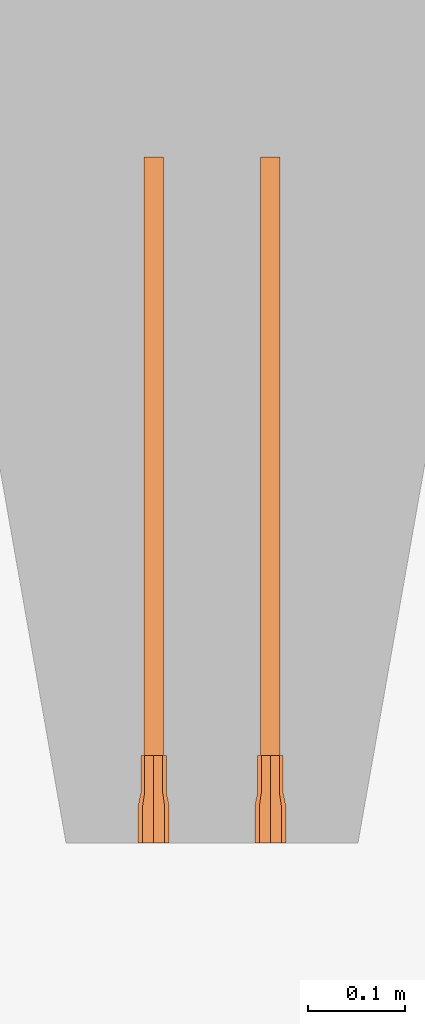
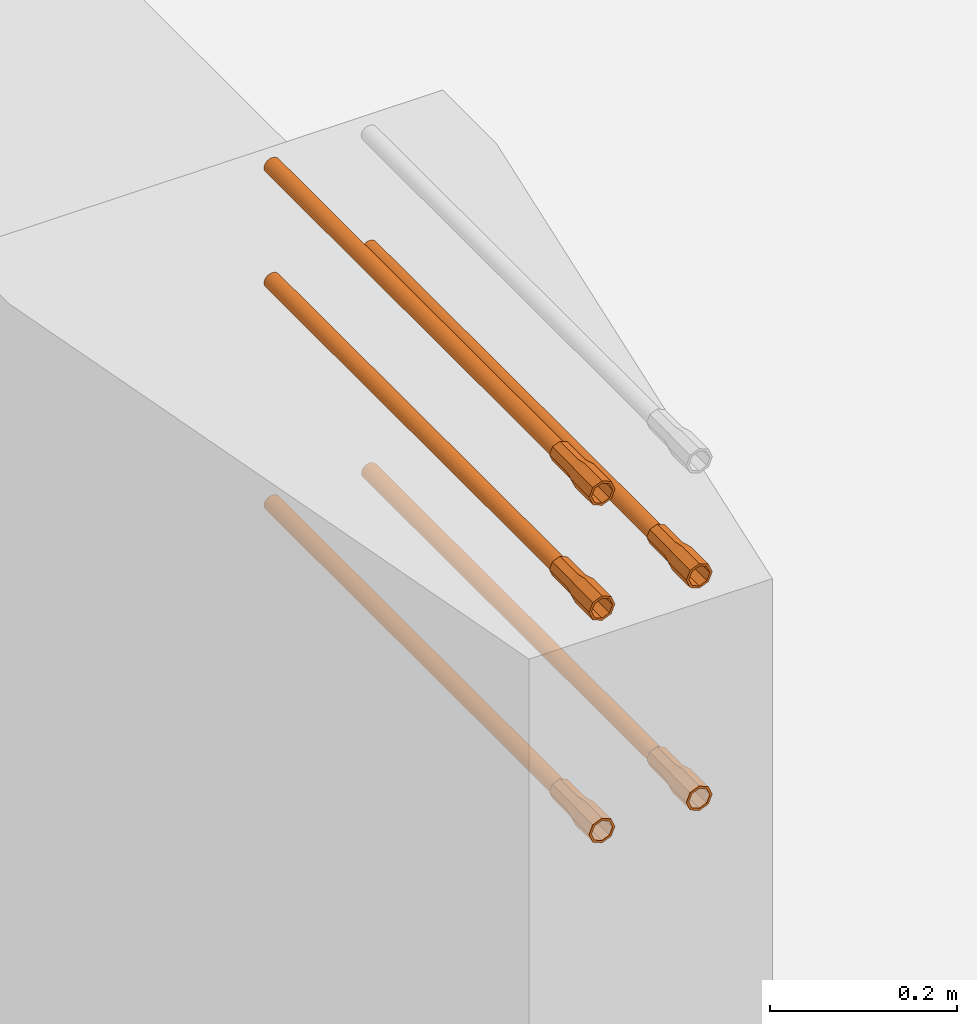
# One storey, part 24 of 26: 5 proxies.
"""IFC2X3 building model written with IfcOpenShell, lengths in millimetres."""

from ifc_helpers import new_model, entity, si_unit, converted_unit, derived_unit, direction, frame, frame_2d, origin, place, context, subcontext, project, spatial, circle, extrude, faceted_brep, source, transform, mapped, type_object, type_shapes, element, save


model = new_model("IFC2X3")

# Units and contexts
model_context = context("Model", 3, precision=0.01, world=origin(), true_north=direction((6.12303176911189e-17, 1.0)))
body_context = subcontext(model_context, "Body", "Model", "MODEL_VIEW")
ifc_project = project(units=[si_unit("LENGTHUNIT", "METRE", prefix="MILLI"), si_unit("AREAUNIT", "SQUARE_METRE"), si_unit("VOLUMEUNIT", "CUBIC_METRE"), converted_unit("PLANEANGLEUNIT", "DEGREE", entity("IfcRatioMeasure", 0.0174532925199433), si_unit("PLANEANGLEUNIT", "RADIAN"), dimensions=[0, 0, 0, 0, 0, 0, 0]), si_unit("MASSUNIT", "GRAM", prefix="KILO"), derived_unit("MASSDENSITYUNIT", [(si_unit("MASSUNIT", "GRAM", prefix="KILO"), 1), (si_unit("LENGTHUNIT", "METRE"), -3)]), si_unit("TIMEUNIT", "SECOND"), si_unit("FREQUENCYUNIT", "HERTZ"), si_unit("THERMODYNAMICTEMPERATUREUNIT", "DEGREE_CELSIUS"), derived_unit("THERMALTRANSMITTANCEUNIT", [(si_unit("MASSUNIT", "GRAM", prefix="KILO"), 1), (si_unit("THERMODYNAMICTEMPERATUREUNIT", "KELVIN"), -1), (si_unit("TIMEUNIT", "SECOND"), -3)]), derived_unit("VOLUMETRICFLOWRATEUNIT", [(si_unit("LENGTHUNIT", "METRE"), 3), (si_unit("TIMEUNIT", "SECOND"), -1)]), si_unit("ELECTRICCURRENTUNIT", "AMPERE"), si_unit("ELECTRICVOLTAGEUNIT", "VOLT"), si_unit("POWERUNIT", "WATT"), si_unit("FORCEUNIT", "NEWTON", prefix="KILO"), si_unit("ILLUMINANCEUNIT", "LUX"), si_unit("LUMINOUSFLUXUNIT", "LUMEN"), si_unit("LUMINOUSINTENSITYUNIT", "CANDELA"), derived_unit("USERDEFINED", [(si_unit("MASSUNIT", "GRAM", prefix="KILO"), -1), (si_unit("LENGTHUNIT", "METRE"), -2), (si_unit("TIMEUNIT", "SECOND"), 3), (si_unit("LUMINOUSFLUXUNIT", "LUMEN"), 1)]), derived_unit("LINEARVELOCITYUNIT", [(si_unit("LENGTHUNIT", "METRE"), 1), (si_unit("TIMEUNIT", "SECOND"), -1)]), si_unit("PRESSUREUNIT", "PASCAL"), derived_unit("USERDEFINED", [(si_unit("LENGTHUNIT", "METRE"), -2), (si_unit("MASSUNIT", "GRAM", prefix="KILO"), 1), (si_unit("TIMEUNIT", "SECOND"), -2)])], contexts=[model_context])

# Site, building, storey
site_placement = place(None, origin())
site = spatial("IfcSite", under=ifc_project, at=site_placement, Name="Default", CompositionType="ELEMENT")
building_placement = place(site_placement, origin())
building = spatial("IfcBuilding", under=site, at=building_placement, Name="niet gebruiken", CompositionType="ELEMENT")
storey_placement = place(building_placement, origin())
storey = spatial("IfcBuildingStorey", under=building, at=storey_placement, Name="00 begane grond", CompositionType="ELEMENT", Elevation=0.0)

# Proxies
building_element_proxy_type_1 = type_object("IfcBuildingElementProxyType", Name="Ø20/M24x705", PredefinedType="NOTDEFINED")
shared_shape_1 = source(origin(), body_context, "Body", "SolidModel", [
    extrude(circle(Radius=10.0, at=frame_2d((0.0, -1.61554457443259e-14), x_axis=(1.0, 0.0))), frame((34.9769027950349, 0.0, -705.0)), (0.0, 0.0, 1.0), 615.0),
    extrude(circle(Radius=10.0, at=frame_2d((0.0, -1.61554457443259e-14), x_axis=(1.0, 0.0))), frame((34.9769027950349, 0.0, -705.0)), (0.0, 0.0, 1.0), 615.0),
    faceted_brep([(29.3200485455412, 13.6568542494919, 0.0), (32.1484756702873, 14.8284271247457, 0.0), (34.9769027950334, 16.0, 0.0), (34.9769027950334, 16.0, -38.0), (32.1484756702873, 14.8284271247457, -38.0), (29.3200485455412, 13.6568542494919, -38.0), (26.4916214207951, 12.4852813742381, -38.0), (23.663194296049, 11.3137084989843, -38.0), (23.663194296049, 11.3137084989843, 0.0), (26.4916214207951, 12.4852813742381, 0.0), (49.805329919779, 2.82842712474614, 0.0), (50.9769027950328, 0.0, 0.0), (50.9769027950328, 0.0, -38.0), (50.0199937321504, 2.31018283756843, -38.0), (49.7680552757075, 2.91841607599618, -38.0), (48.6337570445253, 5.65685424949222, -38.0), (48.5592077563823, 5.83683215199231, -38.0), (47.4621841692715, 8.48528137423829, -38.0), (46.2906112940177, 11.3137084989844, -38.0), (46.2906112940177, 11.3137084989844, 0.0), (47.4621841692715, 8.48528137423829, 0.0), (48.6337570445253, 5.65685424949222, 0.0), (21.3200485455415, 5.65685424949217, 0.0), (22.4916214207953, 8.48528137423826, 0.0), (22.4916214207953, 8.48528137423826, -38.0), (22.2769576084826, 7.96703708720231, -38.0), (21.3200485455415, 5.65685424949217, -38.0), (20.8907209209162, 4.62036567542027, -38.0), (20.1484756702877, 2.82842712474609, -38.0), (18.976902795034, 0.0, -38.0), (18.976902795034, 0.0, 0.0), (20.1484756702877, 2.82842712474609, 0.0), (40.6337570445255, 13.6568542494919, 0.0), (43.4621841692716, 12.4852813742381, 0.0), (43.4621841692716, 12.4852813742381, -38.0), (40.6337570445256, 13.6568542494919, -38.0), (37.8053299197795, 14.8284271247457, -38.0), (37.8053299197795, 14.8284271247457, 0.0), (49.063084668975, -4.62036567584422, 0.0), (47.6768479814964, -7.96703708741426, 0.0), (46.2906112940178, -11.3137084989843, 0.0), (46.2906112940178, -11.3137084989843, -38.0), (47.4621841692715, -8.48528137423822, -38.0), (48.6337570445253, -5.65685424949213, -38.0), (49.8053299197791, -2.82842712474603, -38.0), (29.3200485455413, -13.6568542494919, 0.0), (26.4916214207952, -12.4852813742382, 0.0), (23.6631942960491, -11.3137084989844, 0.0), (23.6631942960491, -11.3137084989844, -38.0), (26.4916214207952, -12.4852813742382, -38.0), (29.3200485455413, -13.6568542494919, -38.0), (32.1484756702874, -14.8284271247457, -38.0), (34.9769027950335, -16.0, -38.0), (34.9769027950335, -16.0, 0.0), (32.1484756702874, -14.8284271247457, 0.0), (37.8053299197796, -14.8284271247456, -38.0), (40.6337570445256, -13.6568542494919, -38.0), (43.4621841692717, -12.4852813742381, -38.0), (43.4621841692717, -12.4852813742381, 0.0), (40.6337570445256, -13.6568542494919, 0.0), (37.8053299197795, -14.8284271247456, 0.0), (22.4916214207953, -8.48528137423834, 0.0), (21.3200485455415, -5.65685424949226, 0.0), (20.1484756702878, -2.82842712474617, 0.0), (19.9338118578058, -2.31018283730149, -38.0), (20.1857498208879, -2.91841488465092, -38.0), (21.3200485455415, -5.65685424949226, -38.0), (22.4916214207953, -8.48528137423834, -38.0), (25.7845146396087, 9.19238815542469, -52.0), (24.8628969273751, 6.96740617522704, -52.0), (23.9412792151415, 4.7424241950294, -52.0), (22.9590910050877, 2.3712120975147, -52.0), (21.976902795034, 0.0, -52.0), (44.1692909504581, 9.19238815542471, -52.0), (47.9769027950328, 0.0, -52.0), (46.994714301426, 2.37121278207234, -52.0), (46.0730968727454, 4.59619407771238, -52.0), (45.1211939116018, 6.89429111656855, -52.0), (34.9769027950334, 13.0, -52.0), (32.6788057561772, 12.0480970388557, -52.0), (30.380708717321, 11.096194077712, -52.0), (28.0826116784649, 10.1442911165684, -52.0), (37.2749998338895, 12.0480970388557, -52.0), (41.8711939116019, 10.1442911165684, -52.0), (39.5730968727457, 11.0961940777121, -52.0), (44.1692909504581, -9.19238815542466, -52.0), (45.0909086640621, -6.96740617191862, -52.0), (45.3722781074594, -6.28812024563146, -52.0), (46.0125263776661, -4.74242418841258, -52.0), (46.5752652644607, -3.38385233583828, -52.0), (46.9947145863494, -2.37121209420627, -52.0), (28.0826116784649, -10.1442911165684, -52.0), (30.3807087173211, -11.0961940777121, -52.0), (32.6788057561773, -12.0480970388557, -52.0), (34.9769027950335, -13.0, -52.0), (25.7845146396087, -9.19238815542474, -52.0), (37.2749998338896, -12.0480970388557, -52.0), (39.5730968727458, -11.096194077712, -52.0), (41.871193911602, -10.1442911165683, -52.0), (22.9288057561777, -2.29809703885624, -52.0), (23.8807087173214, -4.59619407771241, -52.0), (24.8326116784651, -6.89429111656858, -52.0), (32.6788057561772, 12.0480970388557, -90.0), (30.380708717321, 11.096194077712, -90.0), (28.0826116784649, 10.1442911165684, -90.0), (25.7845146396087, 9.19238815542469, -90.0), (34.9769027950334, 13.0, -90.0), (47.9769027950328, 0.0, -90.0), (47.2760840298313, 1.691926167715, -90.0), (46.0730968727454, 4.59619407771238, -90.0), (45.1211939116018, 6.89429111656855, -90.0), (44.1692909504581, 9.19238815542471, -90.0), (23.3785403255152, 3.38385233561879, -90.0), (21.976902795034, 0.0, -90.0), (24.5815274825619, 6.28812024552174, -90.0), (41.8711939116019, 10.1442911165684, -90.0), (39.5730968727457, 11.0961940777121, -90.0), (37.2749998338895, 12.0480970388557, -90.0), (46.0730968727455, -4.5961940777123, -90.0), (47.0249998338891, -2.29809703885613, -90.0), (44.1692909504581, -9.19238815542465, -90.0), (45.1211939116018, -6.89429111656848, -90.0), (25.7845146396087, -9.19238815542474, -90.0), (28.0826116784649, -10.1442911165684, -90.0), (30.3807087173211, -11.0961940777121, -90.0), (32.6788057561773, -12.0480970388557, -90.0), (34.9769027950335, -13.0, -90.0), (37.2749998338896, -12.0480970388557, -90.0), (39.5730968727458, -11.096194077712, -90.0), (41.871193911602, -10.1442911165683, -90.0), (22.6777215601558, -1.6919261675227, -90.0), (23.8807087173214, -4.59619407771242, -90.0), (24.8326116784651, -6.89429111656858, -90.0), (34.9769027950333, 0.0, -90.0), (34.9769027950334, 0.0, -38.0), (47.9769027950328, 0.0, -38.0), (47.2760840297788, 1.69192616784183, -38.0), (46.0730968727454, 4.59619407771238, -38.0), (45.1211939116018, 6.89429111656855, -38.0), (44.1692909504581, 9.19238815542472, -38.0), (41.8711939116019, 10.1442911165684, -38.0), (39.5730968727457, 11.0961940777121, -38.0), (37.2749998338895, 12.0480970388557, -38.0), (34.9769027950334, 13.0, -38.0), (32.6788057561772, 12.0480970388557, -38.0), (30.380708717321, 11.096194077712, -38.0), (28.0826116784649, 10.1442911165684, -38.0), (25.7845146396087, 9.19238815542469, -38.0), (24.5815274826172, 6.28812024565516, -38.0), (23.3785403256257, 3.38385233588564, -38.0), (21.976902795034, 0.0, -38.0), (22.6777215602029, -1.69192616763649, -38.0), (47.0249998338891, -2.29809703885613, -38.0), (46.0730968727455, -4.59619407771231, -38.0), (45.1211939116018, -6.89429111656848, -38.0), (44.1692909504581, -9.19238815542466, -38.0), (41.871193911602, -10.1442911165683, -38.0), (39.5730968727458, -11.096194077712, -38.0), (37.2749998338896, -12.0480970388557, -38.0), (34.9769027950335, -13.0, -38.0), (23.8807087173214, -4.59619407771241, -38.0), (24.8326116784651, -6.89429111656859, -38.0), (25.7845146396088, -9.19238815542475, -38.0), (28.0826116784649, -10.1442911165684, -38.0), (30.3807087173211, -11.0961940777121, -38.0), (32.6788057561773, -12.0480970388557, -38.0), (32.6788057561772, 12.0480970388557, 0.0), (30.380708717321, 11.096194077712, 0.0), (28.0826116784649, 10.1442911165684, 0.0), (25.7845146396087, 9.19238815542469, 0.0), (34.9769027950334, 13.0, 0.0), (47.9769027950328, 0.0, 0.0), (47.0249998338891, 2.29809703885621, 0.0), (46.0730968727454, 4.59619407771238, 0.0), (45.1211939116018, 6.89429111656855, 0.0), (44.1692909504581, 9.19238815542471, 0.0), (24.832611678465, 6.89429111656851, 0.0), (23.8807087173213, 4.59619407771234, 0.0), (22.9288057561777, 2.29809703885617, 0.0), (21.976902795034, 0.0, 0.0), (37.2749998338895, 12.0480970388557, 0.0), (41.8711939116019, 10.1442911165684, 0.0), (39.5730968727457, 11.0961940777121, 0.0), (44.1692909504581, -9.19238815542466, 0.0), (45.3722781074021, -6.28812024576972, 0.0), (46.5752652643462, -3.38385233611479, 0.0), (32.6788057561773, -12.0480970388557, 0.0), (34.9769027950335, -13.0, 0.0), (25.7845146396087, -9.19238815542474, 0.0), (28.0826116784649, -10.1442911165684, 0.0), (30.3807087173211, -11.0961940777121, 0.0), (37.2749998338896, -12.0480970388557, 0.0), (39.5730968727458, -11.096194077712, 0.0), (41.871193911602, -10.1442911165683, 0.0), (22.9288057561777, -2.29809703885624, 0.0), (23.8807087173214, -4.59619407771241, 0.0), (24.8326116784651, -6.89429111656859, 0.0)], [[[0, 1, 2, 3, 4, 5, 6, 7, 8, 9]], [[10, 11, 12, 13, 14, 15, 16, 17, 18, 19, 20, 21]], [[22, 23, 8, 7, 24, 25, 26, 27, 28, 29, 30, 31]], [[32, 33, 19, 18, 34, 35, 36, 3, 2, 37]], [[38, 39, 40, 41, 42, 43, 44, 12, 11]], [[45, 46, 47, 48, 49, 50, 51, 52, 53, 54]], [[53, 52, 55, 56, 57, 41, 40, 58, 59, 60]], [[48, 47, 61, 62, 63, 30, 29, 64, 65, 66, 67]], [[7, 68, 69, 70, 71, 72, 29, 28, 27, 26, 25, 24]], [[73, 18, 17, 16, 15, 14, 13, 12, 74, 75, 76, 77]], [[4, 3, 78, 79, 80, 81, 68, 7, 6, 5]], [[82, 78, 3, 36, 35, 34, 18, 73, 83, 84]], [[41, 85, 86, 87, 88, 89, 90, 74, 12, 44, 43, 42]], [[91, 92, 93, 94, 52, 51, 50, 49, 48, 95]], [[55, 52, 94, 96, 97, 98, 85, 41, 57, 56]], [[99, 100, 101, 95, 48, 67, 66, 65, 64, 29, 72]], [[102, 103, 104, 105, 68, 81, 80, 79, 78, 106]], [[75, 74, 107, 108, 109, 110, 111, 73, 77, 76]], [[112, 113, 72, 71, 70, 69, 68, 105, 114]], [[84, 83, 73, 111, 115, 116, 117, 106, 78, 82]], [[118, 119, 107, 74, 90, 89, 88, 87, 86, 85, 120, 121]], [[92, 91, 95, 122, 123, 124, 125, 126, 94, 93]], [[94, 126, 127, 128, 129, 120, 85, 98, 97, 96]], [[122, 95, 101, 100, 99, 72, 113, 130, 131, 132]], [[133, 111, 110]], [[133, 110, 109]], [[133, 109, 108]], [[133, 108, 107]], [[133, 107, 119]], [[133, 115, 111]], [[133, 116, 115]], [[133, 117, 116]], [[133, 106, 117]], [[133, 102, 106]], [[133, 103, 102]], [[133, 104, 103]], [[133, 105, 104]], [[133, 114, 105]], [[133, 112, 114]], [[133, 113, 112]], [[133, 119, 118]], [[133, 118, 121]], [[133, 121, 120]], [[133, 120, 129]], [[133, 129, 128]], [[133, 128, 127]], [[133, 127, 126]], [[133, 126, 125]], [[133, 130, 113]], [[133, 131, 130]], [[133, 132, 131]], [[133, 122, 132]], [[133, 125, 124]], [[133, 124, 123]], [[133, 123, 122]], [[134, 135, 136]], [[134, 136, 137]], [[134, 137, 138]], [[134, 138, 139]], [[134, 139, 140]], [[134, 140, 141]], [[134, 141, 142]], [[134, 142, 143]], [[134, 143, 144]], [[134, 144, 145]], [[134, 145, 146]], [[134, 146, 147]], [[134, 147, 148]], [[134, 148, 149]], [[134, 149, 150]], [[134, 150, 151]], [[134, 152, 135]], [[134, 153, 152]], [[134, 154, 153]], [[134, 155, 154]], [[134, 156, 155]], [[134, 157, 156]], [[134, 158, 157]], [[134, 159, 158]], [[134, 151, 160]], [[134, 160, 161]], [[134, 161, 162]], [[134, 162, 163]], [[134, 163, 164]], [[134, 164, 165]], [[134, 165, 159]], [[166, 167, 168, 169, 147, 146, 145, 144, 143, 170]], [[136, 135, 171, 172, 173, 174, 175, 139, 138, 137]], [[148, 147, 169, 176, 177, 178, 179, 150, 149]], [[180, 170, 143, 142, 141, 140, 139, 175, 181, 182]], [[153, 154, 155, 183, 184, 185, 171, 135, 152]], [[186, 187, 159, 165, 164, 163, 162, 188, 189, 190]], [[158, 159, 187, 191, 192, 193, 183, 155, 156, 157]], [[161, 160, 151, 150, 179, 194, 195, 196, 188, 162]], [[171, 11, 10]], [[171, 10, 21]], [[171, 21, 20]], [[171, 20, 19]], [[19, 172, 171]], [[171, 38, 11]], [[171, 39, 38]], [[171, 40, 39]], [[40, 171, 185]], [[40, 185, 184]], [[40, 184, 183]], [[183, 58, 40]], [[183, 59, 58]], [[183, 60, 59]], [[183, 53, 60]], [[53, 183, 193]], [[53, 193, 192]], [[53, 192, 191]], [[53, 191, 187]], [[53, 187, 186]], [[53, 186, 190]], [[53, 190, 189]], [[53, 189, 188]], [[188, 54, 53]], [[188, 45, 54]], [[188, 46, 45]], [[188, 47, 46]], [[47, 188, 196]], [[47, 196, 195]], [[47, 195, 194]], [[47, 194, 179]], [[179, 61, 47]], [[179, 62, 61]], [[179, 63, 62]], [[179, 30, 63]], [[179, 31, 30]], [[179, 22, 31]], [[179, 23, 22]], [[179, 8, 23]], [[8, 179, 178]], [[8, 178, 177]], [[8, 177, 176]], [[8, 176, 169]], [[169, 9, 8]], [[169, 0, 9]], [[169, 1, 0]], [[169, 2, 1]], [[2, 169, 168]], [[2, 168, 167]], [[2, 167, 166]], [[2, 166, 170]], [[2, 170, 180]], [[2, 180, 182]], [[2, 182, 181]], [[2, 181, 175]], [[175, 19, 33]], [[19, 175, 174]], [[175, 33, 32]], [[175, 32, 37]], [[175, 37, 2]], [[19, 174, 173]], [[19, 173, 172]]]),
])
type_shapes(building_element_proxy_type_1, [shared_shape_1])
for number, where, z_axis, x_axis in (
    (1, (147825.023097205, 150.0, 5945.0), (0.0, -1.0, 0.0), (1.0, 0.0, 0.0)),
    (2, (147825.023097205, 150.0, 5655.0), (0.0, -1.0, 0.0), (1.0, 0.0, 0.0)),
):
    element("IfcBuildingElementProxy", number, at=place(storey_placement, frame(where, z_axis=z_axis, x_axis=x_axis)), inside=storey, type_object=building_element_proxy_type_1, Name="GM_Stekanker_DEMU_4010 GV:Ø20/M24x705", ObjectType="Ø20/M24x705", context=body_context, shape_type="MappedRepresentation", body=[
        mapped(shared_shape_1, transform((0.0, 0.0, 0.0), scale=1.0)),
    ])
building_element_proxy_type_2 = type_object("IfcBuildingElementProxyType", Name="Ø20/M24x705", PredefinedType="NOTDEFINED")
shared_shape_2 = source(origin(), body_context, "Body", "SolidModel", [
    extrude(circle(Radius=10.0, at=frame_2d((0.0, -4.50212443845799e-14), x_axis=(1.0, 0.0))), frame((34.9769027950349, 0.0, -705.0)), (0.0, 0.0, 1.0), 615.0),
    extrude(circle(Radius=10.0, at=frame_2d((0.0, -4.50212443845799e-14), x_axis=(1.0, 0.0))), frame((34.9769027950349, 0.0, -705.0)), (0.0, 0.0, 1.0), 615.0),
    faceted_brep([(26.4916214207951, -12.4852813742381, 0.0), (23.663194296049, -11.3137084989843, 0.0), (23.663194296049, -11.3137084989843, -38.0), (26.4916214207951, -12.4852813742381, -38.0), (29.3200485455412, -13.6568542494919, -38.0), (32.1484756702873, -14.8284271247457, -38.0), (34.9769027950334, -16.0, -38.0), (34.9769027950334, -16.0, 0.0), (32.1484756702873, -14.8284271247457, 0.0), (29.3200485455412, -13.6568542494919, 0.0), (50.0199937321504, -2.31018283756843, -38.0), (50.9769027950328, 0.0, -38.0), (50.9769027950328, 0.0, 0.0), (49.805329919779, -2.82842712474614, 0.0), (48.6337570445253, -5.65685424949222, 0.0), (47.4621841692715, -8.48528137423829, 0.0), (46.2906112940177, -11.3137084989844, 0.0), (46.2906112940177, -11.3137084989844, -38.0), (47.4621841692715, -8.48528137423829, -38.0), (48.5592077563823, -5.83683215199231, -38.0), (48.6337570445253, -5.65685424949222, -38.0), (49.7680552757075, -2.91841607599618, -38.0), (21.3200485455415, -5.65685424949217, 0.0), (20.1484756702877, -2.82842712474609, 0.0), (18.976902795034, 0.0, 0.0), (18.976902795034, 0.0, -38.0), (20.1484756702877, -2.82842712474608, -38.0), (20.8907209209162, -4.62036567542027, -38.0), (21.3200485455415, -5.65685424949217, -38.0), (22.2769576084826, -7.9670370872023, -38.0), (22.4916214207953, -8.48528137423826, -38.0), (22.4916214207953, -8.48528137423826, 0.0), (37.8053299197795, -14.8284271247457, 0.0), (37.8053299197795, -14.8284271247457, -38.0), (40.6337570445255, -13.6568542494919, -38.0), (43.4621841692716, -12.4852813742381, -38.0), (43.4621841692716, -12.4852813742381, 0.0), (40.6337570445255, -13.6568542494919, 0.0), (48.6337570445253, 5.65685424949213, -38.0), (47.4621841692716, 8.48528137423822, -38.0), (46.2906112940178, 11.3137084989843, -38.0), (46.2906112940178, 11.3137084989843, 0.0), (47.6768479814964, 7.96703708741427, 0.0), (49.063084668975, 4.62036567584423, 0.0), (49.8053299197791, 2.82842712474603, -38.0), (32.1484756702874, 14.8284271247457, 0.0), (34.9769027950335, 16.0, 0.0), (34.9769027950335, 16.0, -38.0), (32.1484756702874, 14.8284271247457, -38.0), (29.3200485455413, 13.6568542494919, -38.0), (26.4916214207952, 12.4852813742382, -38.0), (23.6631942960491, 11.3137084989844, -38.0), (23.6631942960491, 11.3137084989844, 0.0), (26.4916214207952, 12.4852813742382, 0.0), (29.3200485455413, 13.6568542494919, 0.0), (37.8053299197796, 14.8284271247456, -38.0), (37.8053299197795, 14.8284271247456, 0.0), (40.6337570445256, 13.6568542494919, 0.0), (43.4621841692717, 12.4852813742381, 0.0), (43.4621841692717, 12.4852813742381, -38.0), (40.6337570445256, 13.6568542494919, -38.0), (22.4916214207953, 8.48528137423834, -38.0), (21.3200485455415, 5.65685424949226, -38.0), (20.1857498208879, 2.91841488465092, -38.0), (19.9338118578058, 2.31018283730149, -38.0), (20.1484756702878, 2.82842712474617, 0.0), (21.3200485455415, 5.65685424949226, 0.0), (22.4916214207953, 8.48528137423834, 0.0), (24.8628969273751, -6.96740617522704, -52.0), (25.7845146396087, -9.19238815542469, -52.0), (21.976902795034, 0.0, -52.0), (22.9590910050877, -2.3712120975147, -52.0), (23.9412792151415, -4.7424241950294, -52.0), (45.1211939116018, -6.89429111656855, -52.0), (46.0730968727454, -4.59619407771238, -52.0), (46.994714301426, -2.37121278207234, -52.0), (47.9769027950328, 0.0, -52.0), (44.1692909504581, -9.19238815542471, -52.0), (34.9769027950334, -13.0, -52.0), (28.0826116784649, -10.1442911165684, -52.0), (30.380708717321, -11.096194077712, -52.0), (32.6788057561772, -12.0480970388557, -52.0), (37.2749998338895, -12.0480970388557, -52.0), (39.5730968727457, -11.0961940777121, -52.0), (41.8711939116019, -10.1442911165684, -52.0), (45.0909086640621, 6.96740617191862, -52.0), (44.1692909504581, 9.19238815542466, -52.0), (46.9947145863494, 2.37121209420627, -52.0), (46.5752652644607, 3.38385233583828, -52.0), (46.0125263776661, 4.74242418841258, -52.0), (45.3722781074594, 6.28812024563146, -52.0), (34.9769027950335, 13.0, -52.0), (32.6788057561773, 12.0480970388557, -52.0), (30.3807087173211, 11.0961940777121, -52.0), (28.0826116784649, 10.1442911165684, -52.0), (25.7845146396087, 9.19238815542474, -52.0), (41.871193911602, 10.1442911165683, -52.0), (39.5730968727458, 11.096194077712, -52.0), (37.2749998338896, 12.0480970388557, -52.0), (22.9288057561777, 2.29809703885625, -52.0), (24.8326116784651, 6.89429111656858, -52.0), (23.8807087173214, 4.59619407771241, -52.0), (25.7845146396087, -9.19238815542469, -90.0), (28.0826116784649, -10.1442911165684, -90.0), (30.380708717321, -11.096194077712, -90.0), (32.6788057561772, -12.0480970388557, -90.0), (34.9769027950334, -13.0, -90.0), (47.2760840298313, -1.691926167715, -90.0), (47.9769027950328, 0.0, -90.0), (44.1692909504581, -9.19238815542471, -90.0), (45.1211939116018, -6.89429111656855, -90.0), (46.0730968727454, -4.59619407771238, -90.0), (24.5815274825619, -6.28812024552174, -90.0), (21.976902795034, 0.0, -90.0), (23.3785403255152, -3.38385233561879, -90.0), (37.2749998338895, -12.0480970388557, -90.0), (39.5730968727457, -11.0961940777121, -90.0), (41.8711939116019, -10.1442911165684, -90.0), (46.0730968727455, 4.5961940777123, -90.0), (45.1211939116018, 6.89429111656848, -90.0), (44.1692909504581, 9.19238815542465, -90.0), (47.0249998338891, 2.29809703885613, -90.0), (34.9769027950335, 13.0, -90.0), (32.6788057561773, 12.0480970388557, -90.0), (30.3807087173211, 11.0961940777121, -90.0), (28.0826116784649, 10.1442911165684, -90.0), (25.7845146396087, 9.19238815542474, -90.0), (37.2749998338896, 12.0480970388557, -90.0), (41.871193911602, 10.1442911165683, -90.0), (39.5730968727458, 11.096194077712, -90.0), (24.8326116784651, 6.89429111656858, -90.0), (23.8807087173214, 4.59619407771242, -90.0), (22.6777215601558, 1.6919261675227, -90.0), (34.9769027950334, 0.0, -90.0), (34.9769027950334, 0.0, -38.0), (44.1692909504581, -9.19238815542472, -38.0), (45.1211939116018, -6.89429111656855, -38.0), (46.0730968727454, -4.59619407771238, -38.0), (47.2760840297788, -1.69192616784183, -38.0), (47.9769027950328, 0.0, -38.0), (47.0249998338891, 2.29809703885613, -38.0), (41.8711939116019, -10.1442911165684, -38.0), (39.5730968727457, -11.0961940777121, -38.0), (37.2749998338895, -12.0480970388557, -38.0), (34.9769027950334, -13.0, -38.0), (32.6788057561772, -12.0480970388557, -38.0), (30.380708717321, -11.096194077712, -38.0), (28.0826116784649, -10.1442911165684, -38.0), (25.7845146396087, -9.19238815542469, -38.0), (24.5815274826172, -6.28812024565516, -38.0), (23.3785403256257, -3.38385233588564, -38.0), (21.976902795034, 0.0, -38.0), (46.0730968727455, 4.59619407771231, -38.0), (45.1211939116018, 6.89429111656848, -38.0), (44.1692909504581, 9.19238815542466, -38.0), (41.871193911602, 10.1442911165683, -38.0), (39.5730968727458, 11.096194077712, -38.0), (37.2749998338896, 12.0480970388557, -38.0), (34.9769027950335, 13.0, -38.0), (32.6788057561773, 12.0480970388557, -38.0), (22.6777215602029, 1.69192616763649, -38.0), (23.8807087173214, 4.59619407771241, -38.0), (24.8326116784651, 6.89429111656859, -38.0), (25.7845146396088, 9.19238815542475, -38.0), (30.3807087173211, 11.0961940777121, -38.0), (28.0826116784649, 10.1442911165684, -38.0), (25.7845146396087, -9.19238815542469, 0.0), (28.0826116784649, -10.1442911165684, 0.0), (30.380708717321, -11.096194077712, 0.0), (32.6788057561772, -12.0480970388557, 0.0), (34.9769027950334, -13.0, 0.0), (47.0249998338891, -2.29809703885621, 0.0), (47.9769027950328, 0.0, 0.0), (44.1692909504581, -9.19238815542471, 0.0), (45.1211939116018, -6.89429111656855, 0.0), (46.0730968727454, -4.59619407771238, 0.0), (21.976902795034, 0.0, 0.0), (22.9288057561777, -2.29809703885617, 0.0), (23.8807087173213, -4.59619407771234, 0.0), (24.832611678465, -6.89429111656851, 0.0), (39.5730968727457, -11.0961940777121, 0.0), (41.8711939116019, -10.1442911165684, 0.0), (37.2749998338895, -12.0480970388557, 0.0), (46.5752652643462, 3.38385233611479, 0.0), (45.3722781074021, 6.28812024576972, 0.0), (44.1692909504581, 9.19238815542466, 0.0), (30.3807087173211, 11.0961940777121, 0.0), (28.0826116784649, 10.1442911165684, 0.0), (25.7845146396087, 9.19238815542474, 0.0), (34.9769027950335, 13.0, 0.0), (32.6788057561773, 12.0480970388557, 0.0), (41.871193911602, 10.1442911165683, 0.0), (39.5730968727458, 11.096194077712, 0.0), (37.2749998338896, 12.0480970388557, 0.0), (24.8326116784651, 6.89429111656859, 0.0), (23.8807087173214, 4.59619407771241, 0.0), (22.9288057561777, 2.29809703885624, 0.0)], [[[0, 1, 2, 3, 4, 5, 6, 7, 8, 9]], [[10, 11, 12, 13, 14, 15, 16, 17, 18, 19, 20, 21]], [[22, 23, 24, 25, 26, 27, 28, 29, 30, 2, 1, 31]], [[32, 7, 6, 33, 34, 35, 17, 16, 36, 37]], [[38, 39, 40, 41, 42, 43, 12, 11, 44]], [[45, 46, 47, 48, 49, 50, 51, 52, 53, 54]], [[55, 47, 46, 56, 57, 58, 41, 40, 59, 60]], [[61, 62, 63, 64, 25, 24, 65, 66, 67, 52, 51]], [[68, 69, 2, 30, 29, 28, 27, 26, 25, 70, 71, 72]], [[73, 74, 75, 76, 11, 10, 21, 20, 19, 18, 17, 77]], [[78, 6, 5, 4, 3, 2, 69, 79, 80, 81]], [[33, 6, 78, 82, 83, 84, 77, 17, 35, 34]], [[85, 86, 40, 39, 38, 44, 11, 76, 87, 88, 89, 90]], [[49, 48, 47, 91, 92, 93, 94, 95, 51, 50]], [[91, 47, 55, 60, 59, 40, 86, 96, 97, 98]], [[99, 70, 25, 64, 63, 62, 61, 51, 95, 100, 101]], [[81, 80, 79, 69, 102, 103, 104, 105, 106, 78]], [[107, 108, 76, 75, 74, 73, 77, 109, 110, 111]], [[112, 102, 69, 68, 72, 71, 70, 113, 114]], [[82, 78, 106, 115, 116, 117, 109, 77, 84, 83]], [[118, 119, 120, 86, 85, 90, 89, 88, 87, 76, 108, 121]], [[92, 91, 122, 123, 124, 125, 126, 95, 94, 93]], [[127, 122, 91, 98, 97, 96, 86, 120, 128, 129]], [[130, 131, 132, 113, 70, 99, 101, 100, 95, 126]], [[133, 108, 107]], [[133, 107, 111]], [[133, 111, 110]], [[133, 110, 109]], [[133, 109, 117]], [[133, 117, 116]], [[133, 116, 115]], [[133, 115, 106]], [[133, 106, 105]], [[133, 105, 104]], [[133, 104, 103]], [[133, 103, 102]], [[133, 102, 112]], [[133, 112, 114]], [[133, 114, 113]], [[133, 113, 132]], [[133, 121, 108]], [[133, 118, 121]], [[133, 119, 118]], [[133, 120, 119]], [[133, 128, 120]], [[133, 129, 128]], [[133, 127, 129]], [[133, 122, 127]], [[133, 132, 131]], [[133, 131, 130]], [[133, 130, 126]], [[133, 126, 125]], [[133, 125, 124]], [[133, 124, 123]], [[133, 123, 122]], [[134, 135, 136]], [[134, 136, 137]], [[134, 137, 138]], [[134, 138, 139]], [[134, 139, 140]], [[134, 141, 135]], [[134, 142, 141]], [[134, 143, 142]], [[134, 144, 143]], [[134, 145, 144]], [[134, 146, 145]], [[134, 147, 146]], [[134, 148, 147]], [[134, 149, 148]], [[134, 150, 149]], [[134, 151, 150]], [[134, 140, 152]], [[134, 152, 153]], [[134, 153, 154]], [[134, 154, 155]], [[134, 155, 156]], [[134, 156, 157]], [[134, 157, 158]], [[134, 158, 159]], [[134, 160, 151]], [[134, 161, 160]], [[134, 162, 161]], [[134, 163, 162]], [[134, 159, 164]], [[134, 164, 165]], [[134, 165, 163]], [[145, 146, 147, 148, 166, 167, 168, 169, 170, 144]], [[171, 172, 139, 138, 137, 136, 135, 173, 174, 175]], [[150, 151, 176, 177, 178, 179, 166, 148, 149]], [[180, 181, 173, 135, 141, 142, 143, 144, 170, 182]], [[183, 184, 185, 154, 153, 152, 140, 139, 172]], [[186, 187, 188, 163, 165, 164, 159, 158, 189, 190]], [[189, 158, 157, 156, 155, 154, 185, 191, 192, 193]], [[163, 188, 194, 195, 196, 176, 151, 160, 161, 162]], [[172, 16, 15]], [[16, 172, 171]], [[172, 15, 14]], [[172, 14, 13]], [[172, 13, 12]], [[172, 12, 43]], [[172, 43, 42]], [[172, 42, 41]], [[41, 183, 172]], [[16, 171, 175]], [[16, 175, 174]], [[16, 174, 173]], [[173, 36, 16]], [[173, 37, 36]], [[173, 32, 37]], [[173, 7, 32]], [[7, 173, 181]], [[7, 181, 180]], [[7, 180, 182]], [[7, 182, 170]], [[7, 170, 169]], [[7, 169, 168]], [[7, 168, 167]], [[7, 167, 166]], [[166, 8, 7]], [[166, 9, 8]], [[166, 0, 9]], [[166, 1, 0]], [[1, 166, 179]], [[1, 179, 178]], [[1, 178, 177]], [[1, 177, 176]], [[176, 31, 1]], [[176, 22, 31]], [[176, 23, 22]], [[176, 24, 23]], [[176, 65, 24]], [[176, 66, 65]], [[176, 67, 66]], [[176, 52, 67]], [[52, 176, 196]], [[52, 196, 195]], [[52, 195, 194]], [[52, 194, 188]], [[188, 53, 52]], [[188, 54, 53]], [[188, 45, 54]], [[188, 46, 45]], [[46, 188, 187]], [[46, 187, 186]], [[46, 186, 190]], [[46, 190, 189]], [[46, 189, 193]], [[46, 193, 192]], [[46, 192, 191]], [[46, 191, 185]], [[185, 41, 58]], [[41, 185, 184]], [[185, 58, 57]], [[185, 57, 56]], [[185, 56, 46]], [[41, 184, 183]]]),
])
type_shapes(building_element_proxy_type_2, [shared_shape_2])
for number, where, z_axis, x_axis in (
    (3, (147774.976902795, 150.0, 6095.0), (0.0, -1.0, 0.0), (-1.0, 0.0, 0.0)),
    (4, (147774.976902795, 150.0, 5945.0), (0.0, -1.0, 0.0), (-1.0, 0.0, 0.0)),
    (5, (147774.976902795, 150.0, 5655.0), (0.0, -1.0, 0.0), (-1.0, 0.0, 0.0)),
):
    element("IfcBuildingElementProxy", number, at=place(storey_placement, frame(where, z_axis=z_axis, x_axis=x_axis)), inside=storey, type_object=building_element_proxy_type_2, Name="GM_Stekanker_DEMU_4010 GV:Ø20/M24x705", ObjectType="Ø20/M24x705", context=body_context, shape_type="MappedRepresentation", body=[
        mapped(shared_shape_2, transform((0.0, 0.0, 0.0), scale=1.0)),
    ])

save(model, "model.ifc")
